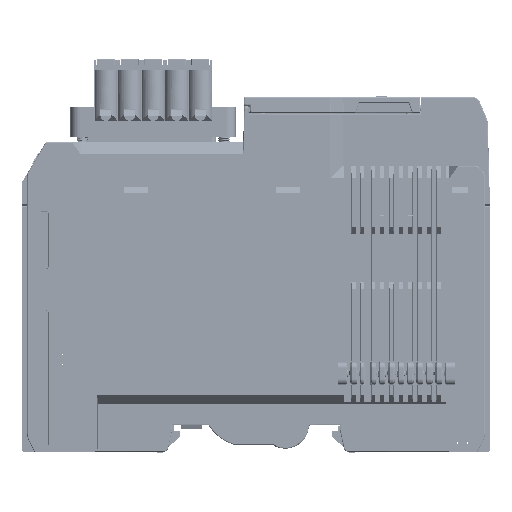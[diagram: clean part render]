
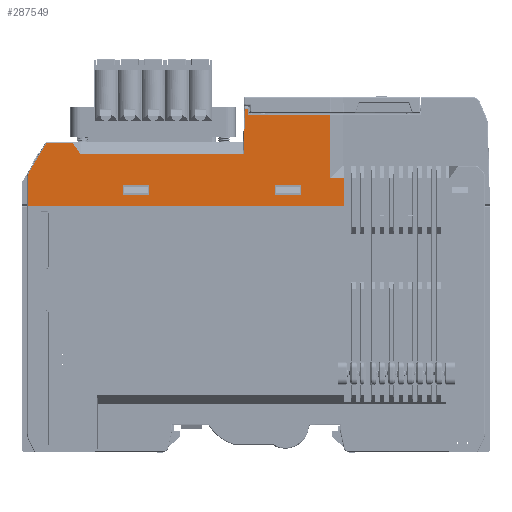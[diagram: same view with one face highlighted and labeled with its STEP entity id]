
A CAD part, left-side view. The second image highlights one B-rep face of the part: STEP entity #287549.
In plain terms, the highlighted planar face has unit normal (-1, 0, 0).
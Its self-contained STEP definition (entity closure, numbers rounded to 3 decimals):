
#28616=DIRECTION('',(0.,0.,1.));
#28617=VECTOR('',#28616,5.75);
#28618=CARTESIAN_POINT('',(-8.75,-18.556,52.05));
#28619=LINE('',#28618,#28617);
#28620=DIRECTION('',(0.,1.,0.));
#28621=VECTOR('',#28620,2.806);
#28622=CARTESIAN_POINT('',(-8.75,-18.556,57.8));
#28623=LINE('',#28622,#28621);
#28632=CARTESIAN_POINT('',(-8.75,46.4,58.304));
#28633=DIRECTION('',(1.,0.,0.));
#28634=DIRECTION('',(0.,1.,0.));
#28635=AXIS2_PLACEMENT_3D('',#28632,#28633,#28634);
#28637=DIRECTION('',(0.,-0.511,0.86));
#28638=VECTOR('',#28637,7.068);
#28639=CARTESIAN_POINT('',(-8.75,47.948,59.223));
#28640=LINE('',#28639,#28638);
#28641=DIRECTION('',(0.,-0.026,1.));
#28642=VECTOR('',#28641,9.696);
#28643=CARTESIAN_POINT('',(-8.75,2.575,62.908));
#28644=LINE('',#28643,#28642);
#28645=DIRECTION('',(0.,1.,0.));
#28646=VECTOR('',#28645,66.756);
#28647=CARTESIAN_POINT('',(-8.75,-18.556,52.05));
#28648=LINE('',#28647,#28646);
#28649=DIRECTION('',(0.,1.,0.));
#28650=VECTOR('',#28649,5.567);
#28651=CARTESIAN_POINT('',(-8.75,-9.584,56.434));
#28652=LINE('',#28651,#28650);
#28653=DIRECTION('',(0.,-0.001,-1.));
#28654=VECTOR('',#28653,2.065);
#28655=CARTESIAN_POINT('',(-8.75,-4.016,56.434));
#28656=LINE('',#28655,#28654);
#28657=DIRECTION('',(0.,-1.,0.));
#28658=VECTOR('',#28657,5.564);
#28659=CARTESIAN_POINT('',(-8.75,-4.018,54.368));
#28660=LINE('',#28659,#28658);
#28661=DIRECTION('',(0.,-0.001,1.));
#28662=VECTOR('',#28661,2.065);
#28663=CARTESIAN_POINT('',(-8.75,-9.582,54.368));
#28664=LINE('',#28663,#28662);
#28665=DIRECTION('',(0.,0.,-1.));
#28666=VECTOR('',#28665,6.254);
#28667=CARTESIAN_POINT('',(-8.75,48.2,58.304));
#28668=LINE('',#28667,#28666);
#30766=DIRECTION('',(0.,0.,1.));
#30767=VECTOR('',#30766,1.3);
#30768=CARTESIAN_POINT('',(-8.75,1.75,71.3));
#30769=LINE('',#30768,#30767);
#30791=DIRECTION('',(0.,1.,0.));
#30792=VECTOR('',#30791,0.571);
#30793=CARTESIAN_POINT('',(-8.75,1.75,72.6));
#30794=LINE('',#30793,#30792);
#30853=DIRECTION('',(0.,1.,0.));
#30854=VECTOR('',#30853,34.5);
#30855=CARTESIAN_POINT('',(-8.75,2.575,62.908));
#30856=LINE('',#30855,#30854);
#137496=DIRECTION('',(0.,0.577,0.816));
#137497=VECTOR('',#137496,2.93);
#137498=CARTESIAN_POINT('',(-8.75,37.075,62.908));
#137499=LINE('',#137498,#137497);
#137506=DIRECTION('',(0.,1.,0.));
#137507=VECTOR('',#137506,5.572);
#137508=CARTESIAN_POINT('',(-8.75,38.767,65.3));
#137509=LINE('',#137508,#137507);
#137730=DIRECTION('',(0.,1.,0.));
#137731=VECTOR('',#137730,17.5);
#137732=CARTESIAN_POINT('',(-8.75,-15.75,71.3));
#137733=LINE('',#137732,#137731);
#137897=DIRECTION('',(0.,0.,1.));
#137898=VECTOR('',#137897,13.5);
#137899=CARTESIAN_POINT('',(-8.75,-15.75,57.8));
#137900=LINE('',#137899,#137898);
#139424=DIRECTION('',(0.,-1.,0.));
#139425=VECTOR('',#139424,5.567);
#139426=CARTESIAN_POINT('',(-8.75,28.134,56.434));
#139427=LINE('',#139426,#139425);
#139436=DIRECTION('',(0.,0.001,-1.));
#139437=VECTOR('',#139436,2.065);
#139438=CARTESIAN_POINT('',(-8.75,22.566,56.434));
#139439=LINE('',#139438,#139437);
#139448=DIRECTION('',(0.,1.,0.));
#139449=VECTOR('',#139448,5.564);
#139450=CARTESIAN_POINT('',(-8.75,22.568,54.368));
#139451=LINE('',#139450,#139449);
#139464=DIRECTION('',(0.,0.001,1.));
#139465=VECTOR('',#139464,2.065);
#139466=CARTESIAN_POINT('',(-8.75,28.132,54.368));
#139467=LINE('',#139466,#139465);
#188619=CARTESIAN_POINT('',(-8.75,48.2,52.05));
#188621=VERTEX_POINT('',#188619);
#188622=CARTESIAN_POINT('',(-8.75,-18.556,52.05));
#188623=VERTEX_POINT('',#188622);
#188766=CARTESIAN_POINT('',(-8.75,-9.582,54.368));
#188767=VERTEX_POINT('',#188766);
#188768=CARTESIAN_POINT('',(-8.75,-9.584,56.434));
#188769=VERTEX_POINT('',#188768);
#188772=CARTESIAN_POINT('',(-8.75,-4.016,56.434));
#188773=VERTEX_POINT('',#188772);
#188774=CARTESIAN_POINT('',(-8.75,-4.018,54.368));
#188775=VERTEX_POINT('',#188774);
#188776=CARTESIAN_POINT('',(-8.75,28.134,56.434));
#188777=CARTESIAN_POINT('',(-8.75,22.566,56.434));
#188778=VERTEX_POINT('',#188776);
#188779=VERTEX_POINT('',#188777);
#188780=CARTESIAN_POINT('',(-8.75,28.132,54.368));
#188781=VERTEX_POINT('',#188780);
#188782=CARTESIAN_POINT('',(-8.75,22.568,54.368));
#188783=VERTEX_POINT('',#188782);
#188784=CARTESIAN_POINT('',(-8.75,48.2,58.304));
#188785=VERTEX_POINT('',#188784);
#188786=CARTESIAN_POINT('',(-8.75,47.948,59.223));
#188787=VERTEX_POINT('',#188786);
#188788=CARTESIAN_POINT('',(-8.75,44.339,65.3));
#188789=VERTEX_POINT('',#188788);
#188790=CARTESIAN_POINT('',(-8.75,38.767,65.3));
#188791=VERTEX_POINT('',#188790);
#188792=CARTESIAN_POINT('',(-8.75,2.575,62.908));
#188793=CARTESIAN_POINT('',(-8.75,2.321,
72.6));
#188794=VERTEX_POINT('',#188792);
#188795=VERTEX_POINT('',#188793);
#188796=CARTESIAN_POINT('',(-8.75,1.75,72.6));
#188797=VERTEX_POINT('',#188796);
#188798=CARTESIAN_POINT('',(-8.75,1.75,71.3));
#188799=VERTEX_POINT('',#188798);
#188800=CARTESIAN_POINT('',(-8.75,-15.75,57.8));
#188801=CARTESIAN_POINT('',(-8.75,-15.75,71.3));
#188802=VERTEX_POINT('',#188800);
#188803=VERTEX_POINT('',#188801);
#188804=CARTESIAN_POINT('',(-8.75,-18.556,57.8));
#188805=VERTEX_POINT('',#188804);
#189965=CARTESIAN_POINT('',(-8.75,37.075,62.908));
#189966=VERTEX_POINT('',#189965);
#287497=CARTESIAN_POINT('',(-8.75,14.822,62.325));
#287498=DIRECTION('',(1.,0.,0.));
#287499=DIRECTION('',(0.,-1.,0.));
#287500=AXIS2_PLACEMENT_3D('',#287497,#287498,#287499);
#287501=PLANE('',#287500);
#287503=ORIENTED_EDGE('',*,*,#287502,.F.);
#287505=ORIENTED_EDGE('',*,*,#287504,.T.);
#287507=ORIENTED_EDGE('',*,*,#287506,.T.);
#287509=ORIENTED_EDGE('',*,*,#287508,.F.);
#287511=ORIENTED_EDGE('',*,*,#287510,.F.);
#287513=ORIENTED_EDGE('',*,*,#287512,.F.);
#287515=ORIENTED_EDGE('',*,*,#287514,.T.);
#287517=ORIENTED_EDGE('',*,*,#287516,.F.);
#287519=ORIENTED_EDGE('',*,*,#287518,.F.);
#287521=ORIENTED_EDGE('',*,*,#287520,.F.);
#287523=ORIENTED_EDGE('',*,*,#287522,.F.);
#287524=ORIENTED_EDGE('',*,*,#287481,.F.);
#287525=ORIENTED_EDGE('',*,*,#287464,.F.);
#287526=ORIENTED_EDGE('',*,*,#267468,.T.);
#287527=EDGE_LOOP('',(#287503,#287505,#287507,#287509,#287511,#287513,#287515,
#287517,#287519,#287521,#287523,#287524,#287525,#287526));
#287528=FACE_OUTER_BOUND('',#287527,.F.);
#287530=ORIENTED_EDGE('',*,*,#287529,.T.);
#287532=ORIENTED_EDGE('',*,*,#287531,.T.);
#287534=ORIENTED_EDGE('',*,*,#287533,.T.);
#287536=ORIENTED_EDGE('',*,*,#287535,.T.);
#287537=EDGE_LOOP('',(#287530,#287532,#287534,#287536));
#287538=FACE_BOUND('',#287537,.F.);
#287540=ORIENTED_EDGE('',*,*,#287539,.F.);
#287542=ORIENTED_EDGE('',*,*,#287541,.F.);
#287544=ORIENTED_EDGE('',*,*,#287543,.F.);
#287546=ORIENTED_EDGE('',*,*,#287545,.F.);
#287547=EDGE_LOOP('',(#287540,#287542,#287544,#287546));
#287548=FACE_BOUND('',#287547,.F.);
#28636=CIRCLE('',#28635,1.8);
#267468=EDGE_CURVE('',#188623,#188621,#28648,.T.);
#287464=EDGE_CURVE('',#188623,#188805,#28619,.T.);
#287481=EDGE_CURVE('',#188805,#188802,#28623,.T.);
#287502=EDGE_CURVE('',#188785,#188621,#28668,.T.);
#287504=EDGE_CURVE('',#188785,#188787,#28636,.T.);
#287506=EDGE_CURVE('',#188787,#188789,#28640,.T.);
#287508=EDGE_CURVE('',#188791,#188789,#137509,.T.);
#287510=EDGE_CURVE('',#189966,#188791,#137499,.T.);
#287512=EDGE_CURVE('',#188794,#189966,#30856,.T.);
#287514=EDGE_CURVE('',#188794,#188795,#28644,.T.);
#287516=EDGE_CURVE('',#188797,#188795,#30794,.T.);
#287518=EDGE_CURVE('',#188799,#188797,#30769,.T.);
#287520=EDGE_CURVE('',#188803,#188799,#137733,.T.);
#287522=EDGE_CURVE('',#188802,#188803,#137900,.T.);
#287529=EDGE_CURVE('',#188769,#188773,#28652,.T.);
#287531=EDGE_CURVE('',#188773,#188775,#28656,.T.);
#287533=EDGE_CURVE('',#188775,#188767,#28660,.T.);
#287535=EDGE_CURVE('',#188767,#188769,#28664,.T.);
#287539=EDGE_CURVE('',#188778,#188779,#139427,.T.);
#287541=EDGE_CURVE('',#188781,#188778,#139467,.T.);
#287543=EDGE_CURVE('',#188783,#188781,#139451,.T.);
#287545=EDGE_CURVE('',#188779,#188783,#139439,.T.);
#287549=ADVANCED_FACE('',(#287528,#287538,#287548),#287501,.F.);
